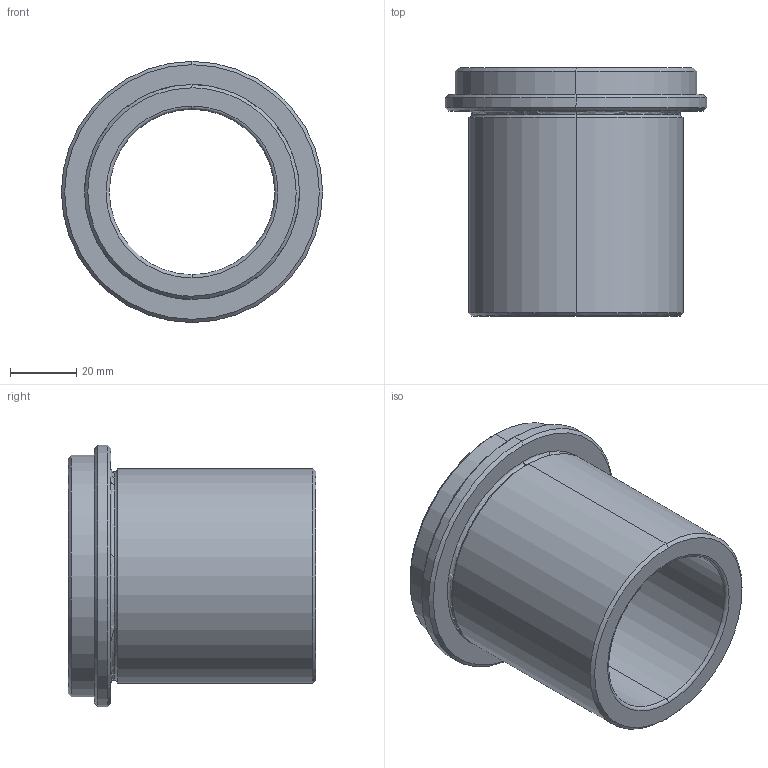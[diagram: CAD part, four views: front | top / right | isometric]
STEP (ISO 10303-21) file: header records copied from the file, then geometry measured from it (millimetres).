
FILE_DESCRIPTION(('CATIA V5 STEP Exchange'),'2;1');
FILE_NAME('C:\Users\Utente\Desktop\IO LAVORO\3D X SITO CF\X SITO\CF 439\CF 439 50x75.stp','2020-12-27T20:49:36+00:00',('none'),('none'),'CATIA Version 5 Release 20 GA (IN-10)','CATIA V5 STEP AP203','none');
FILE_SCHEMA(('CONFIG_CONTROL_DESIGN'));
Length unit declared in the file: millimetre
Products named in the file (1): CF 439 50x75
Bounding box: 79 x 75 x 79 mm (x, y, z)
Volume: 115618.9 mm3; surface area: 32930.2 mm2
Topology: 1 solids, 1 shells, 28 faces, 86 edges, 62 vertices
Faces by surface type: cone 8, cylinder 8, torus 8, plane 4
Entity records: 1104 total; most frequent: CARTESIAN_POINT 289, ORIENTED_EDGE 172, DIRECTION 134, AXIS2_PLACEMENT_3D 91, EDGE_CURVE 86, CIRCLE 62, VERTEX_POINT 62, EDGE_LOOP 32
